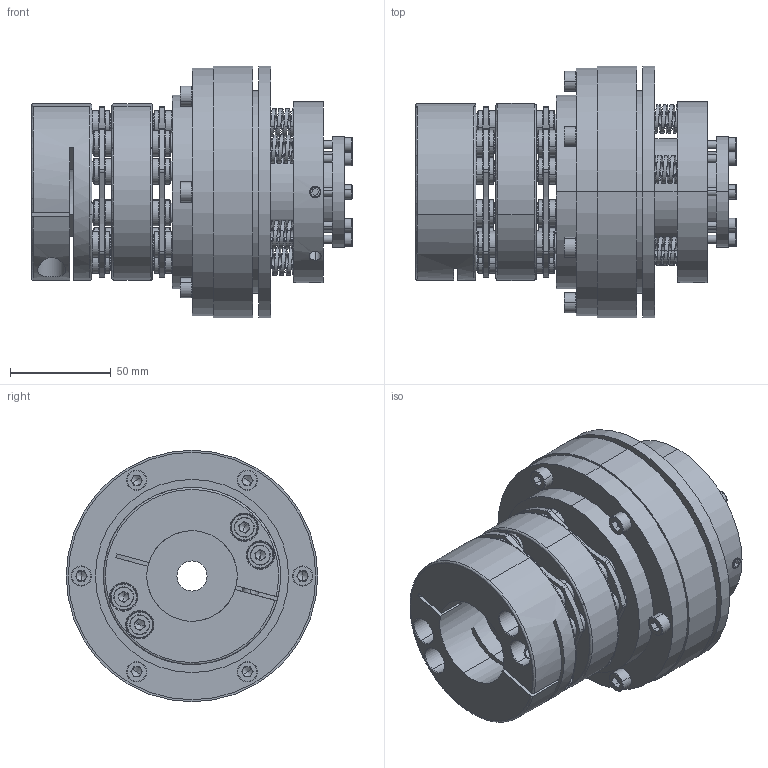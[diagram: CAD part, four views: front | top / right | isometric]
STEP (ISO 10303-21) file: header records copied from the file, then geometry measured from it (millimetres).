
FILE_DESCRIPTION (( 'STEP AP214' ), '1' );
FILE_NAME ('STL150-P-L-M.STEP', '2020-03-01T04:12:53', ( '' ), ( '' ), 'SwSTEP 2.0', 'SolidWorks 2015', '' );
FILE_SCHEMA (( 'AUTOMOTIVE_DESIGN' ));
Length unit declared in the file: millimetre
Products named in the file (1): STL150-P-L-M
Bounding box: 159.4 x 125 x 125 mm (x, y, z)
Volume: 849429.9 mm3; surface area: 173788.2 mm2
Topology: 1 solids, 81 shells, 1973 faces, 4890 edges, 3073 vertices
Faces by surface type: cylinder 701, plane 596, bspline 400, cone 192, torus 84
Entity records: 111787 total; most frequent: CARTESIAN_POINT 44250, DIRECTION 9740, ORIENTED_EDGE 9632, EDGE_CURVE 4816, AXIS2_PLACEMENT_3D 4023, VERTEX_POINT 3073, CIRCLE 2449, EDGE_LOOP 2271
